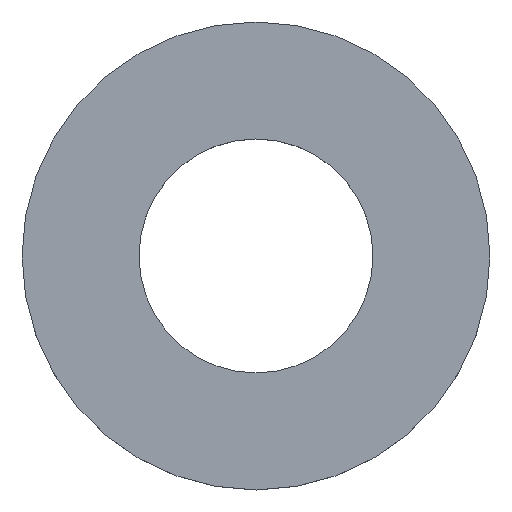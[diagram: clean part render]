
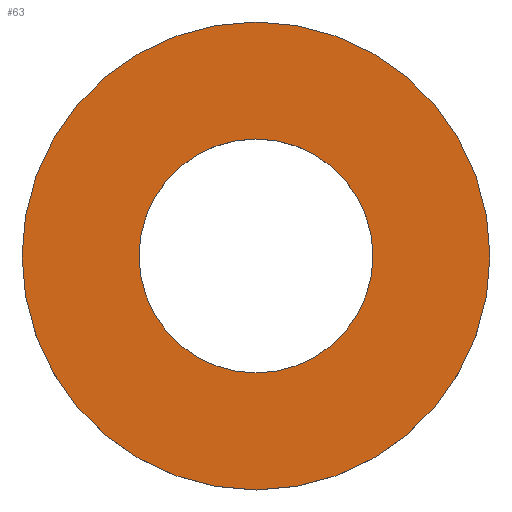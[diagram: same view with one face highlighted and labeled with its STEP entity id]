
A CAD part, top view. The second image highlights one B-rep face of the part: STEP entity #63.
In plain terms, the highlighted planar face has unit normal (0, 0, 1).
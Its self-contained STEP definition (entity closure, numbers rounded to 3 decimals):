
#15=FACE_BOUND('',#26,.T.);
#17=PLANE('',#94);
#21=FACE_OUTER_BOUND('',#25,.T.);
#25=EDGE_LOOP('',(#55));
#26=EDGE_LOOP('',(#56));
#34=CIRCLE('',#90,4.5);
#35=CIRCLE('',#92,9.);
#38=VERTEX_POINT('',#120);
#39=VERTEX_POINT('',#124);
#43=EDGE_CURVE('',#38,#38,#34,.T.);
#44=EDGE_CURVE('',#39,#39,#35,.T.);
#55=ORIENTED_EDGE('',*,*,#44,.T.);
#56=ORIENTED_EDGE('',*,*,#43,.T.);
#63=ADVANCED_FACE('',(#21,#15),#17,.T.);
#90=AXIS2_PLACEMENT_3D('',#122,#103,#104);
#92=AXIS2_PLACEMENT_3D('',#125,#107,#108);
#94=AXIS2_PLACEMENT_3D('',#129,#112,#113);
#103=DIRECTION('center_axis',(0.,0.,-1.));
#104=DIRECTION('ref_axis',(-1.,0.,0.));
#107=DIRECTION('center_axis',(0.,0.,1.));
#108=DIRECTION('ref_axis',(-1.,0.,0.));
#112=DIRECTION('center_axis',(0.,0.,1.));
#113=DIRECTION('ref_axis',(1.,0.,0.));
#120=CARTESIAN_POINT('',(-0.75,0.,2.));
#122=CARTESIAN_POINT('Origin',(-5.25,0.,2.));
#124=CARTESIAN_POINT('',(3.75,0.,2.));
#125=CARTESIAN_POINT('Origin',(-5.25,0.,2.));
#129=CARTESIAN_POINT('Origin',(-5.25,0.,2.));
